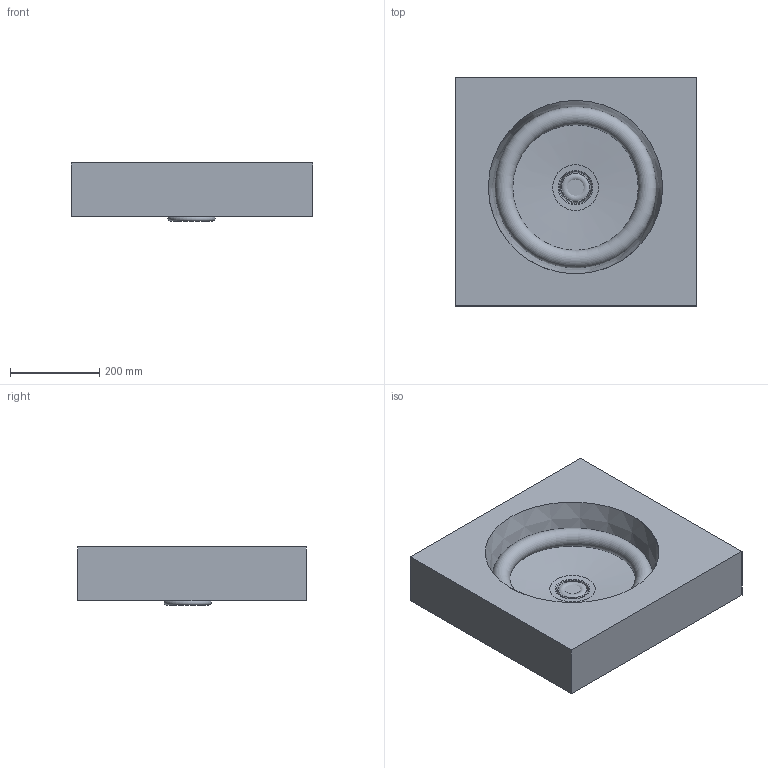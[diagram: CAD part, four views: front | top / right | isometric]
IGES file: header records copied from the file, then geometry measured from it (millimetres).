
Start section: Data from Parasolid IGES Translator 22.0.50, Copyright(c) 2006 Siemens P LM Software. All Rights Reserved.
Global section: file name: noorth-top-H 12 D 51,3 W 72_5301.igs; native system: By Siemens PLM Incorporated; preprocessor: XPlus GENERIC/IGES 22.0.50; author: Noname; organization: Noname; date: 20251105.220101; units: metre
Bounding box: 540 x 510 x 129.79 mm (x, y, z)
Volume: 9758138.3 mm3; surface area: 1190084.7 mm2
Topology: 3 solids, 3 shells, 43 faces, 85 edges, 52 vertices
Faces by surface type: plane 20, cone 11, cylinder 7, torus 5
Full cylindrical faces by diameter (mm): 4 x2, 34 x2, 46 x1, 64 x1
